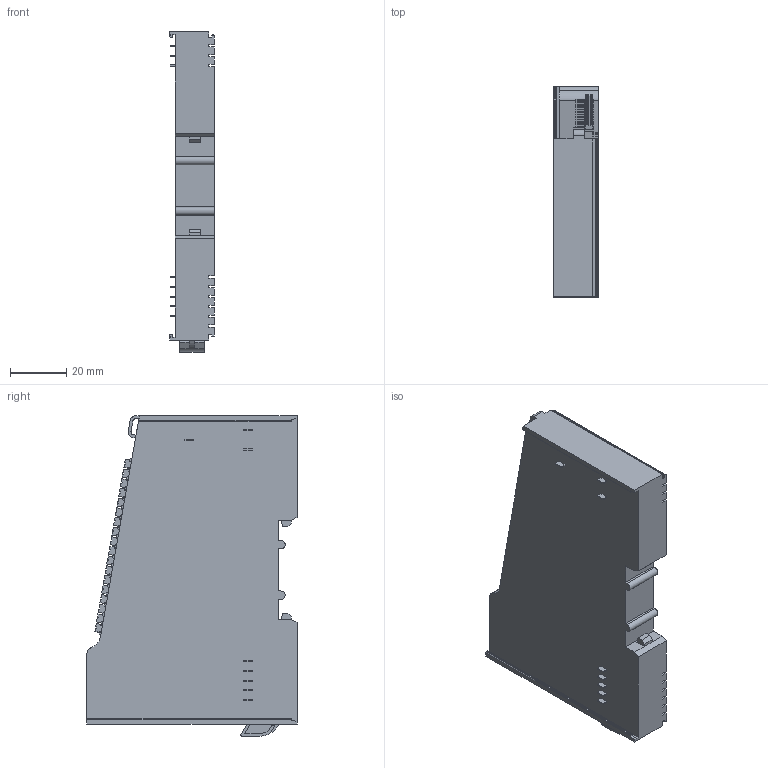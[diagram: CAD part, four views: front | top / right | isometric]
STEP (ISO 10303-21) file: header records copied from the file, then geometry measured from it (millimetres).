
FILE_DESCRIPTION (( 'STEP AP214' ), '1' );
FILE_NAME ('CT222F-NP.STEP', '2023-07-12T07:49:29', ( '' ), ( '' ), 'SwSTEP 2.0', 'SolidWorks 2021', '' );
FILE_SCHEMA (( 'AUTOMOTIVE_DESIGN' ));
Length unit declared in the file: millimetre
Products named in the file (1): CT222F-NP
Bounding box: 16 x 75 x 114.33 mm (x, y, z)
Volume: 97731.5 mm3; surface area: 26427.4 mm2
Topology: 1 solids, 1 shells, 1060 faces, 2919 edges, 1920 vertices
Faces by surface type: plane 961, bspline 77, cylinder 22
Entity records: 36193 total; most frequent: CARTESIAN_POINT 9685, ORIENTED_EDGE 5838, DIRECTION 4771, EDGE_CURVE 2919, VECTOR 2719, LINE 2719, VERTEX_POINT 1920, EDGE_LOOP 1121
